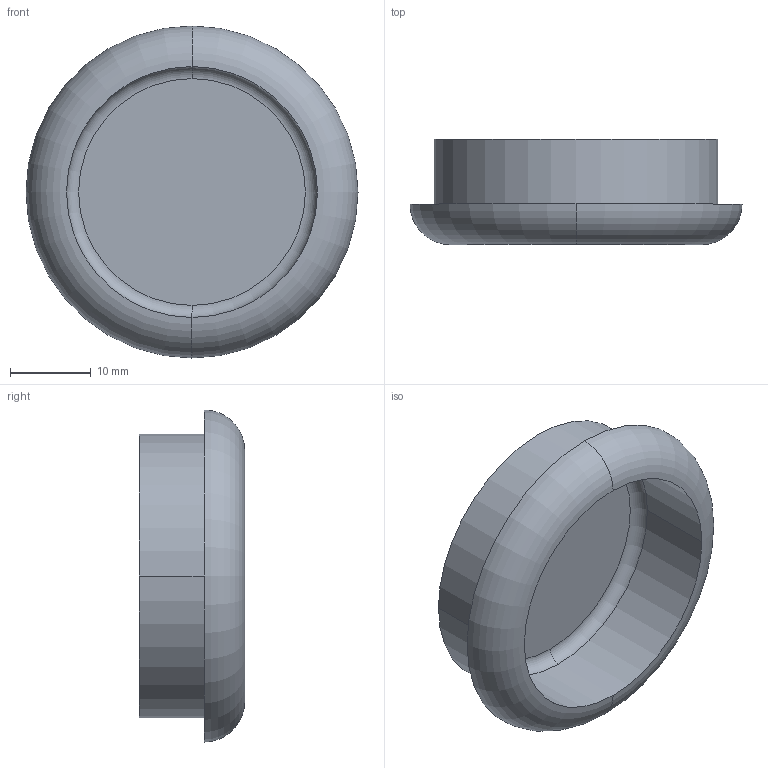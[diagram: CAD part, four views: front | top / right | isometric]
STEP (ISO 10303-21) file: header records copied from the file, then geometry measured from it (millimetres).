
FILE_DESCRIPTION( ( '' ), '1' );
FILE_NAME( 'C:/Documents and Settings/Sachin/Desktop/Sheet 10_1/stp/9070556.stp', '2013-10-22T05:45:47', ( '' ), ( '' ), ' ', ' ', ' ' );
FILE_SCHEMA( ( 'CONFIG_CONTROL_DESIGN' ) );
Length unit declared in the file: millimetre
Products named in the file (1): 1
Bounding box: 41 x 13 x 41 mm (x, y, z)
Volume: 5388.3 mm3; surface area: 4884.2 mm2
Topology: 1 solids, 1 shells, 11 faces, 26 edges, 18 vertices
Faces by surface type: torus 4, cylinder 4, plane 3
Entity records: 382 total; most frequent: DIRECTION 72, CARTESIAN_POINT 56, ORIENTED_EDGE 52, AXIS2_PLACEMENT_3D 34, EDGE_CURVE 26, CIRCLE 22, VERTEX_POINT 18, EDGE_LOOP 12
